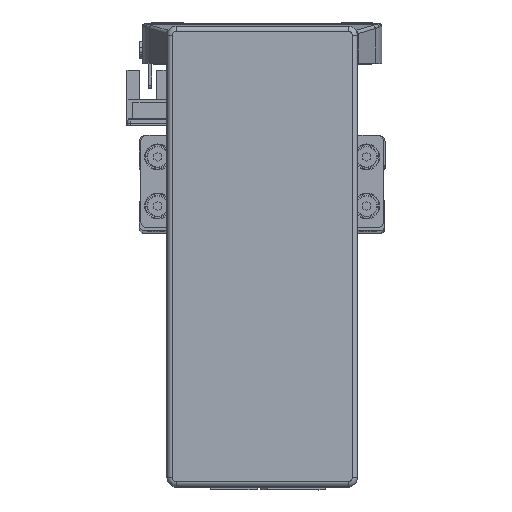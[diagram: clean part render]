
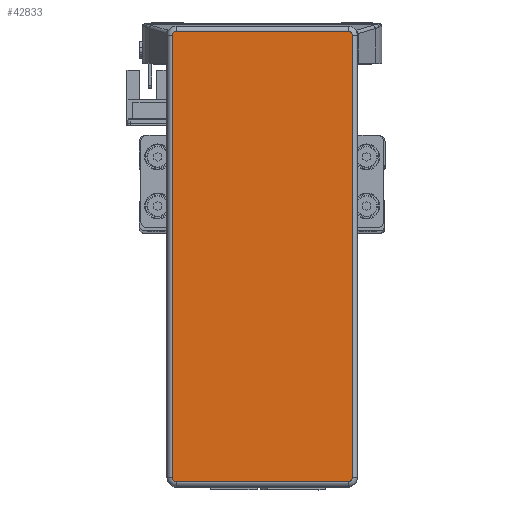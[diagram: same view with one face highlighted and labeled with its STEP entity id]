
A CAD part, top view. The second image highlights one B-rep face of the part: STEP entity #42833.
In plain terms, the highlighted planar face has unit normal (0, 0, 1) as drawn and (0, 0, -1) by its records, which use the part's own axes.
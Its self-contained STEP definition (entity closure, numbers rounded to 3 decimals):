
#2462 = FACE_OUTER_BOUND ( 'NONE', #31553, .T. ) ;
#3592 = PLANE ( 'NONE',  #36992 ) ;
#3612 = CARTESIAN_POINT ( 'NONE',  ( 71.995, -27.995, -32.2 ) ) ;
#3613 = DIRECTION ( 'NONE',  ( 0., 0., 1. ) ) ;
#3614 = DIRECTION ( 'NONE',  ( 1., 0., 0. ) ) ;
#10498 = CARTESIAN_POINT ( 'NONE',  ( -71.995, 29.295, -32.2 ) ) ;
#18458 = VERTEX_POINT ( 'NONE', #28127 ) ;
#18459 = VERTEX_POINT ( 'NONE', #28162 ) ;
#18474 = VERTEX_POINT ( 'NONE', #28072 ) ;
#18475 = VERTEX_POINT ( 'NONE', #28111 ) ;
#18483 = VERTEX_POINT ( 'NONE', #28169 ) ;
#18495 = VERTEX_POINT ( 'NONE', #28130 ) ;
#18506 = VERTEX_POINT ( 'NONE', #28134 ) ;
#23971 = VERTEX_POINT ( 'NONE', #10498 ) ;
#26719 = EDGE_CURVE ( 'NONE', #23971, #18474, #38480, .T. ) ;
#26725 = EDGE_CURVE ( 'NONE', #18495, #18458, #38442, .T. ) ;
#26740 = EDGE_CURVE ( 'NONE', #18459, #18506, #38475, .T. ) ;
#26741 = EDGE_CURVE ( 'NONE', #18483, #23971, #38487, .T. ) ;
#26743 = EDGE_CURVE ( 'NONE', #18475, #18495, #38493, .T. ) ;
#26748 = EDGE_CURVE ( 'NONE', #18506, #18483, #38457, .T. ) ;
#26790 = EDGE_CURVE ( 'NONE', #18458, #18459, #38514, .T. ) ;
#26792 = EDGE_CURVE ( 'NONE', #18474, #18475, #38551, .T. ) ;
#28072 = CARTESIAN_POINT ( 'NONE',  ( 71.995, 29.295, -32.2 ) ) ;
#28111 = CARTESIAN_POINT ( 'NONE',  ( 73.295, 27.995, -32.2 ) ) ;
#28127 = CARTESIAN_POINT ( 'NONE',  ( 71.995, -29.295, -32.2 ) ) ;
#28130 = CARTESIAN_POINT ( 'NONE',  ( 73.295, -27.995, -32.2 ) ) ;
#28134 = CARTESIAN_POINT ( 'NONE',  ( -73.295, -27.995, -32.2 ) ) ;
#28162 = CARTESIAN_POINT ( 'NONE',  ( -71.995, -29.295, -32.2 ) ) ;
#28169 = CARTESIAN_POINT ( 'NONE',  ( -73.295, 27.995, -32.2 ) ) ;
#29019 = AXIS2_PLACEMENT_3D ( 'NONE', #39406, #39402, #39412 ) ;
#29055 = AXIS2_PLACEMENT_3D ( 'NONE', #39477, #39426, #39465 ) ;
#29058 = AXIS2_PLACEMENT_3D ( 'NONE', #39565, #39571, #39567 ) ;
#29079 = AXIS2_PLACEMENT_3D ( 'NONE', #38596, #38577, #38590 ) ;
#31553 = EDGE_LOOP ( 'NONE', ( #44602, #44619, #44646, #44561, #44622, #44658, #44628, #44650 ) ) ;
#36992 = AXIS2_PLACEMENT_3D ( 'NONE', #3612, #3613, #3614 ) ;
#38442 = CIRCLE ( 'NONE', #29019, 1.3 ) ;
#38453 = VECTOR ( 'NONE', #39391, 1000. ) ;
#38457 = LINE ( 'NONE', #38569, #38498 ) ;
#38475 = CIRCLE ( 'NONE', #29055, 1.3 ) ;
#38480 = LINE ( 'NONE', #39390, #38453 ) ;
#38487 = CIRCLE ( 'NONE', #29079, 1.3 ) ;
#38493 = LINE ( 'NONE', #39460, #38495 ) ;
#38495 = VECTOR ( 'NONE', #39464, 1000. ) ;
#38498 = VECTOR ( 'NONE', #38565, 1000. ) ;
#38514 = LINE ( 'NONE', #39546, #38550 ) ;
#38550 = VECTOR ( 'NONE', #39551, 1000. ) ;
#38551 = CIRCLE ( 'NONE', #29058, 1.3 ) ;
#38565 = DIRECTION ( 'NONE',  ( 0., 1., 0. ) ) ;
#38569 = CARTESIAN_POINT ( 'NONE',  ( -73.295, -27.995, -32.2 ) ) ;
#38577 = DIRECTION ( 'NONE',  ( 0., 0., -1. ) ) ;
#38590 = DIRECTION ( 'NONE',  ( 1., 0., 0. ) ) ;
#38596 = CARTESIAN_POINT ( 'NONE',  ( -71.995, 27.995, -32.2 ) ) ;
#39390 = CARTESIAN_POINT ( 'NONE',  ( 71.995, 29.295, -32.2 ) ) ;
#39391 = DIRECTION ( 'NONE',  ( 1., 0., 0. ) ) ;
#39402 = DIRECTION ( 'NONE',  ( 0., 0., -1. ) ) ;
#39406 = CARTESIAN_POINT ( 'NONE',  ( 71.995, -27.995, -32.2 ) ) ;
#39412 = DIRECTION ( 'NONE',  ( 1., 0., 0. ) ) ;
#39426 = DIRECTION ( 'NONE',  ( 0., 0., -1. ) ) ;
#39460 = CARTESIAN_POINT ( 'NONE',  ( 73.295, -27.995, -32.2 ) ) ;
#39464 = DIRECTION ( 'NONE',  ( 0., -1., 0. ) ) ;
#39465 = DIRECTION ( 'NONE',  ( 1., 0., 0. ) ) ;
#39477 = CARTESIAN_POINT ( 'NONE',  ( -71.995, -27.995, -32.2 ) ) ;
#39546 = CARTESIAN_POINT ( 'NONE',  ( 71.995, -29.295, -32.2 ) ) ;
#39551 = DIRECTION ( 'NONE',  ( -1., 0., 0. ) ) ;
#39565 = CARTESIAN_POINT ( 'NONE',  ( 71.995, 27.995, -32.2 ) ) ;
#39567 = DIRECTION ( 'NONE',  ( 1., 0., 0. ) ) ;
#39571 = DIRECTION ( 'NONE',  ( 0., 0., -1. ) ) ;
#42833 = ADVANCED_FACE ( 'NONE', ( #2462 ), #3592, .F. ) ;
#44561 = ORIENTED_EDGE ( 'NONE', *, *, #26740, .T. ) ;
#44602 = ORIENTED_EDGE ( 'NONE', *, *, #26743, .T. ) ;
#44619 = ORIENTED_EDGE ( 'NONE', *, *, #26725, .T. ) ;
#44622 = ORIENTED_EDGE ( 'NONE', *, *, #26748, .T. ) ;
#44628 = ORIENTED_EDGE ( 'NONE', *, *, #26719, .T. ) ;
#44646 = ORIENTED_EDGE ( 'NONE', *, *, #26790, .T. ) ;
#44650 = ORIENTED_EDGE ( 'NONE', *, *, #26792, .T. ) ;
#44658 = ORIENTED_EDGE ( 'NONE', *, *, #26741, .T. ) ;
